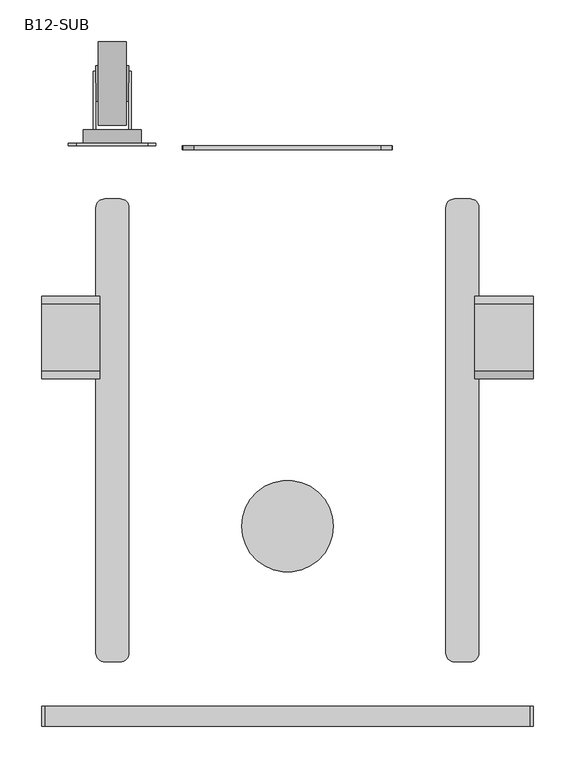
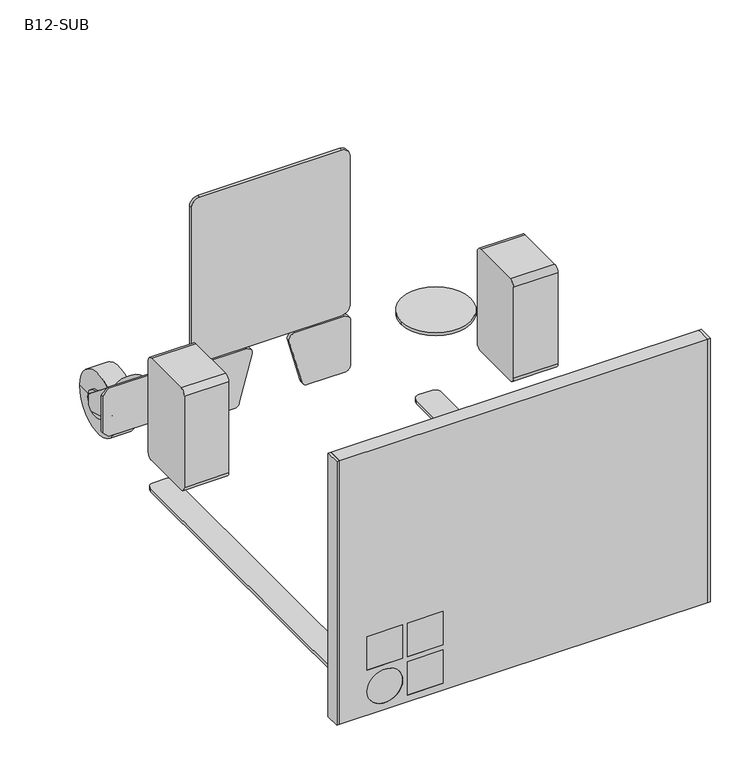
"""IFC4 building model written with IfcOpenShell, lengths in millimetres: proxy geometry, d&b B12-SUB : B12-SUB."""

from ifc_helpers import new_model, si_unit, point, frame, frame_2d, origin, origin_with_axes, place, context, project, spatial, polyline, circle_curve, trimmed, segment, composite_curve, outline, extrude, source, transform, mapped, element, save
from ifc_brep_helpers import plane_surface, cylinder_surface, revolved_surface, advanced_brep


def b12_sub_e7cbb8c9(model_context):
    return source(origin(), model_context, "Body", "SolidModel", [
        advanced_brep(
        [(2254.6771383, 655.2505973, 94.999962), (2324.6771383, 655.2505973, 94.999962), (2312.6771383, 655.2505973, 68.6181501), (2312.6771383, 655.2505973, 121.0781491), (2309.6771383, 655.2505973, 121.0781491), (2309.6771383, 655.2505973, 66.2771488), (2269.6771383, 655.2505973, 66.2771488), (2269.6771383, 655.2505973, 121.0781491), (2266.6771383, 655.2505973, 121.0781491), (2266.6771383, 655.2505973, 68.6181501), (2324.6771383, 639.2505973, 94.999962), (2254.6771383, 639.2505973, 94.999962), (2266.6771383, 639.2505973, 68.6181501), (2266.6771383, 639.2505973, 60.17524), (2269.6771383, 639.2505973, 60.17524), (2269.6771383, 639.2505973, 66.2771488), (2309.6771383, 639.2505973, 66.2771488), (2309.6771383, 639.2505973, 60.17524), (2312.6771383, 639.2505973, 60.17524), (2312.6771383, 639.2505973, 68.6181501), (2266.6771383, 725.4505973, 65.1264244), (2266.6771383, 725.4505973, 46.999962), (2266.6771383, 718.4505973, 39.999962), (2266.6771383, 653.9505973, 60.17524), (2269.6771383, 653.9505973, 60.17524), (2269.6771383, 718.4505973, 39.999962), (2269.6771383, 725.4505973, 46.999962), (2269.6771383, 725.4505973, 65.1264244), (2312.6771383, 653.9505973, 60.17524), (2312.6771383, 718.4505973, 39.999962), (2312.6771383, 725.4505973, 46.999962), (2312.6771383, 725.4505973, 65.1264244), (2309.6771383, 725.4505973, 65.1264244), (2309.6771383, 725.4505973, 46.999962), (2309.6771383, 718.4505973, 39.999962), (2309.6771383, 653.9505973, 60.17524)],
        [
            (0, 1, circle_curve(frame((2289.6771383, 655.2505973, 94.999962), z_axis=(0.0, 1.0, 0.0), x_axis=(-1.0, 0.0, 0.0)), 35.0)),
            (1, 2, circle_curve(frame((2289.6771383, 655.2505973, 94.999962), z_axis=(0.0, 1.0, 0.0), x_axis=(-1.0, 0.0, 0.0)), 35.0)),
            (2, 3),
            (3, 4),
            (4, 5),
            (5, 6, circle_curve(frame((2289.6771383, 655.2505973, 94.999962), z_axis=(0.0, 1.0, 0.0), x_axis=(-1.0, 0.0, 0.0)), 35.0)),
            (6, 7),
            (7, 8),
            (8, 9),
            (9, 0, circle_curve(frame((2289.6771383, 655.2505973, 94.999962), z_axis=(0.0, 1.0, 0.0), x_axis=(-1.0, 0.0, 0.0)), 35.0)),
            (10, 11, circle_curve(frame((2289.6771383, 639.2505973, 94.999962), z_axis=(0.0, -1.0, 0.0), x_axis=(-1.0, 0.0, 0.0)), 35.0)),
            (11, 12, circle_curve(frame((2289.6771383, 639.2505973, 94.999962), z_axis=(0.0, -1.0, 0.0), x_axis=(-1.0, 0.0, 0.0)), 35.0)),
            (12, 13),
            (13, 14),
            (14, 15),
            (15, 16, circle_curve(frame((2289.6771383, 639.2505973, 94.999962), z_axis=(0.0, -1.0, 0.0), x_axis=(-1.0, 0.0, 0.0)), 35.0)),
            (16, 17),
            (17, 18),
            (18, 19),
            (19, 10, circle_curve(frame((2289.6771383, 639.2505973, 94.999962), z_axis=(0.0, -1.0, 0.0), x_axis=(-1.0, 0.0, 0.0)), 35.0)),
            (1, 10),
            (19, 2),
            (15, 6),
            (5, 16),
            (11, 0),
            (9, 12),
            (8, 20),
            (20, 21),
            (21, 22),
            (22, 23),
            (23, 13),
            (14, 24),
            (24, 25),
            (25, 26),
            (26, 27),
            (27, 7),
            (27, 20),
            (26, 21),
            (25, 22),
            (24, 23),
            (18, 28),
            (28, 29),
            (29, 30),
            (30, 31),
            (31, 3),
            (4, 32),
            (32, 33),
            (33, 34),
            (34, 35),
            (35, 17),
            (31, 32),
            (30, 33),
            (29, 34),
            (28, 35),
        ],
        [
            plane_surface(frame((2254.6771383, 655.2505973, 94.999962), z_axis=(0.0, 1.0, 0.0), x_axis=(0.0, 0.0, 1.0))),
            plane_surface(frame((2254.6771383, 639.2505973, 94.999962), z_axis=(0.0, -1.0, 0.0), x_axis=(0.0, 0.0, -1.0))),
            cylinder_surface(frame((2289.6771383, 639.2505973, 94.999962), z_axis=(0.0, 1.0, 0.0), x_axis=(-1.0, 0.0, 0.0)), 35.0),
            plane_surface(frame((2266.6771383, 709.1202866, 78.1422228), z_axis=(-1.0000000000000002, 0.0, 0.0), x_axis=(0.0, 0.7819992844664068, -0.6232793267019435))),
            plane_surface(frame((2269.6771383, 709.1202866, 78.1422228), z_axis=(1.0000000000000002, 0.0, 0.0), x_axis=(0.0, -0.7819992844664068, 0.6232793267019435))),
            plane_surface(frame((2266.6771383, 655.2505973, 121.0781491), z_axis=(0.0, 0.6232793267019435, 0.7819992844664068), x_axis=(1.0, 0.0, 0.0))),
            plane_surface(frame((2266.6771383, 725.4505973, 65.1264244), z_axis=(0.0, 1.0, 0.0), x_axis=(1.0, 0.0, 0.0))),
            plane_surface(frame((2266.6771383, 725.4505973, 46.999962), z_axis=(0.0, 0.7071067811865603, -0.7071067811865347), x_axis=(1.0, 0.0, 0.0))),
            plane_surface(frame((2266.6771383, 718.4505973, 39.999962), z_axis=(0.0, -0.29853148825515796, -0.9543997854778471), x_axis=(1.0, 0.0, 0.0))),
            plane_surface(frame((2266.6771383, 653.9505973, 60.17524), z_axis=(0.0, 0.0, -1.0), x_axis=(1.0, 0.0, 0.0))),
            plane_surface(frame((2312.6771383, 655.2505973, 121.0781491), z_axis=(1.0, 0.0, 0.0), x_axis=(0.0, -1.0, 0.0))),
            plane_surface(frame((2309.6771383, 655.2505973, 121.0781491), z_axis=(-1.0, 0.0, 0.0), x_axis=(0.0, 1.0, 0.0))),
            plane_surface(frame((2312.6771383, 725.4505973, 65.1264244), z_axis=(0.0, 0.6232793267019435, 0.7819992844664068), x_axis=(-1.0, 0.0, 0.0))),
            plane_surface(frame((2312.6771383, 725.4505973, 46.999962), z_axis=(0.0, 1.0, 0.0), x_axis=(-1.0, 0.0, 0.0))),
            plane_surface(frame((2312.6771383, 718.4505973, 39.999962), z_axis=(0.0, 0.7071067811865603, -0.7071067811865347), x_axis=(-1.0, 0.0, 0.0))),
            plane_surface(frame((2312.6771383, 653.9505973, 60.17524), z_axis=(0.0, -0.29853148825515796, -0.9543997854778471), x_axis=(-1.0, 0.0, 0.0))),
            plane_surface(frame((2312.6771383, 639.2505973, 60.17524), z_axis=(0.0, 0.0, -1.0), x_axis=(-1.0, 0.0, 0.0))),
        ],
        [
            (0, [[1, 2, 3, 4, 5, 6, 7, 8, 9, 10]]),
            (1, [[11, 12, 13, 14, 15, 16, 17, 18, 19, 20]]),
            (2, [[21, -20, 22, -2]]),
            (2, [[23, -6, 24, -16]]),
            (2, [[25, -10, 26, -12]]),
            (2, [[-1, -25, -11, -21]]),
            (3, [[27, 28, 29, 30, 31, -13, -26, -9]]),
            (4, [[32, 33, 34, 35, 36, -7, -23, -15]]),
            (5, [[-27, -8, -36, 37]]),
            (6, [[-28, -37, -35, 38]]),
            (7, [[-29, -38, -34, 39]]),
            (8, [[-30, -39, -33, 40]]),
            (9, [[-31, -40, -32, -14]]),
            (10, [[41, 42, 43, 44, 45, -3, -22, -19]]),
            (11, [[46, 47, 48, 49, 50, -17, -24, -5]]),
            (12, [[-45, 51, -46, -4]]),
            (13, [[-44, 52, -47, -51]]),
            (14, [[-43, 53, -48, -52]]),
            (15, [[-42, 54, -49, -53]]),
            (16, [[-41, -18, -50, -54]]),
        ],
    ),
        extrude(outline(polyline([(135.0, 2332.1771003), (135.0, 2247.1771763), (124.999962, 2237.1771383), (64.999962, 2237.1771383), (54.999924, 2247.1771763), (54.999924, 2332.1771003), (64.999962, 2342.1771383), (124.999962, 2342.1771383), (135.0, 2332.1771003)])), frame((0.0, 636.2505973, 0.0), z_axis=(0.0, 1.0, 0.0), x_axis=(0.0, 0.0, 1.0)), (0.0, 0.0, 1.0), 3.0),
        advanced_brep(
        [(2273.0003805, 660.9067763, 55.4678867), (2273.0003805, 760.9067763, 55.4678867), (2306.3538961, 760.9067763, 55.4678867), (2306.3538961, 660.9067763, 55.4678867), (2273.0003805, 689.493179, 55.4678867), (2273.0003805, 732.3203735, 55.4678867), (2269.6771383, 689.493179, 55.4678867), (2269.6771383, 732.3203735, 55.4678867), (2269.6771383, 710.9067763, 55.4678867), (2309.6771383, 689.493179, 55.4678867), (2309.6771383, 732.3203735, 55.4678867), (2309.6771383, 710.9067763, 55.4678867), (2306.3538961, 689.493179, 55.4678867), (2306.3538961, 732.3203735, 55.4678867)],
        [
            (0, 1, circle_curve(frame((2273.0003805, 710.9067763, 55.4678867), z_axis=(1.0, 0.0, 0.0), x_axis=(0.0, 1.0, 0.0)), 50.0)),
            (1, 2),
            (2, 3, circle_curve(frame((2306.3538961, 710.9067763, 55.4678867), z_axis=(-1.0, 0.0, 0.0), x_axis=(0.0, 1.0, 0.0)), 50.0)),
            (3, 0),
            (1, 0, circle_curve(frame((2273.0003805, 710.9067763, 55.4678867), z_axis=(1.0, 0.0, 0.0), x_axis=(0.0, 1.0, 0.0)), 50.0)),
            (3, 2, circle_curve(frame((2306.3538961, 710.9067763, 55.4678867), z_axis=(-1.0, 0.0, 0.0), x_axis=(0.0, 1.0, 0.0)), 50.0)),
            (4, 5, circle_curve(frame((2273.0003805, 710.9067763, 55.4678867), z_axis=(1.0, 0.0, 0.0), x_axis=(0.0, 1.0, 0.0)), 21.4135972)),
            (5, 1),
            (0, 4),
            (5, 4, circle_curve(frame((2273.0003805, 710.9067763, 55.4678867), z_axis=(1.0, 0.0, 0.0), x_axis=(0.0, 1.0, 0.0)), 21.4135972)),
            (6, 7, circle_curve(frame((2269.6771383, 710.9067763, 55.4678867), z_axis=(1.0, 0.0, 0.0), x_axis=(0.0, 1.0, 0.0)), 21.4135972)),
            (7, 5),
            (4, 6),
            (7, 6, circle_curve(frame((2269.6771383, 710.9067763, 55.4678867), z_axis=(1.0, 0.0, 0.0), x_axis=(0.0, 1.0, 0.0)), 21.4135972)),
            (8, 7),
            (6, 8),
            (9, 10, circle_curve(frame((2309.6771383, 710.9067763, 55.4678867), z_axis=(1.0, 0.0, 0.0), x_axis=(0.0, 1.0, 0.0)), 21.4135972)),
            (10, 11),
            (11, 9),
            (10, 9, circle_curve(frame((2309.6771383, 710.9067763, 55.4678867), z_axis=(1.0, 0.0, 0.0), x_axis=(0.0, 1.0, 0.0)), 21.4135972)),
            (12, 13, circle_curve(frame((2306.3538961, 710.9067763, 55.4678867), z_axis=(1.0, 0.0, 0.0), x_axis=(0.0, 1.0, 0.0)), 21.4135972)),
            (13, 10),
            (9, 12),
            (13, 12, circle_curve(frame((2306.3538961, 710.9067763, 55.4678867), z_axis=(1.0, 0.0, 0.0), x_axis=(0.0, 1.0, 0.0)), 21.4135972)),
            (2, 13),
            (12, 3),
        ],
        [
            cylinder_surface(frame((2246.7338841, 710.9067763, 55.4678867), z_axis=(-1.0, 0.0, 0.0), x_axis=(0.0, 1.0, 0.0)), 50.0),
            plane_surface(frame((2273.0003805, 710.9067763, 55.4678867), z_axis=(-1.0, 0.0, 0.0), x_axis=(0.0, 1.0, 0.0))),
            cylinder_surface(frame((2246.7338841, 710.9067763, 55.4678867), z_axis=(-1.0, 0.0, 0.0), x_axis=(0.0, 1.0, 0.0)), 21.4135972),
            plane_surface(frame((2269.6771383, 710.9067763, 55.4678867), z_axis=(-1.0, 0.0, 0.0), x_axis=(0.0, 1.0, 0.0))),
            plane_surface(frame((2309.6771383, 710.9067763, 55.4678867), z_axis=(1.0, 0.0, 0.0), x_axis=(0.0, 1.0, 0.0))),
            plane_surface(frame((2306.3538961, 710.9067763, 55.4678867), z_axis=(1.0, 0.0, 0.0), x_axis=(0.0, 1.0, 0.0))),
        ],
        [
            (0, [[1, 2, 3, 4]]),
            (0, [[5, -4, 6, -2]]),
            (1, [[7, 8, -1, 9]]),
            (1, [[10, -9, -5, -8]]),
            (2, [[11, 12, -7, 13]]),
            (2, [[14, -13, -10, -12]]),
            (3, [[15, -11, 16]]),
            (3, [[-16, -14, -15]]),
            (4, [[17, 18, 19]]),
            (4, [[20, -19, -18]]),
            (2, [[21, 22, -17, 23]]),
            (2, [[24, -23, -20, -22]]),
            (5, [[-3, 25, -21, 26]]),
            (5, [[-6, -26, -24, -25]]),
        ],
    ),
        extrude(outline(composite_curve([segment(polyline([(129.0, 2617.0), (129.0, 2538.0890284)]), True, "CONTINUOUS"), segment(trimmed(circle_curve(frame_2d((120.0, 2538.0890284)), 9.0), [point((129.0, 2538.0890284))], [point((117.6706286, 2529.3956959))], False, "CARTESIAN"), True, "CONTINUOUS"), segment(polyline([(117.6706286, 2529.3956959), (42.6706286, 2549.4918854)]), True, "CONTINUOUS"), segment(trimmed(circle_curve(frame_2d((45.0, 2558.1852178)), 9.0), [point((42.6706286, 2549.4918854))], [point((36.0, 2558.1852178))], False, "CARTESIAN"), True, "CONTINUOUS"), segment(polyline([(36.0, 2558.1852178), (36.0, 2617.0)]), True, "CONTINUOUS"), segment(trimmed(circle_curve(frame_2d((45.0, 2617.0)), 9.0), [point((36.0, 2617.0))], [point((45.0, 2626.0))], False, "CARTESIAN"), True, "CONTINUOUS"), segment(polyline([(45.0, 2626.0), (120.0, 2626.0)]), True, "CONTINUOUS"), segment(trimmed(circle_curve(frame_2d((120.0, 2617.0)), 9.0), [point((120.0, 2626.0))], [point((129.0, 2617.0))], False, "CARTESIAN"), True, "CONTINUOUS")], self_intersect=False)), frame((0.0, 631.2505973, 0.0), z_axis=(0.0, 1.0, 0.0), x_axis=(0.0, 0.0, 1.0)), (0.0, 0.0, 1.0), 5.0),
        extrude(outline(composite_curve([segment(trimmed(circle_curve(frame_2d((120.0, 2383.0)), 9.0), [point((129.0, 2383.0))], [point((120.0, 2374.0))], False, "CARTESIAN"), True, "CONTINUOUS"), segment(polyline([(120.0, 2374.0), (45.0, 2374.0)]), True, "CONTINUOUS"), segment(trimmed(circle_curve(frame_2d((45.0, 2383.0)), 9.0), [point((45.0, 2374.0))], [point((36.0, 2383.0))], False, "CARTESIAN"), True, "CONTINUOUS"), segment(polyline([(36.0, 2383.0), (36.0, 2441.8147822)]), True, "CONTINUOUS"), segment(trimmed(circle_curve(frame_2d((45.0, 2441.8147822)), 9.0), [point((36.0, 2441.8147822))], [point((42.6706286, 2450.5081146))], False, "CARTESIAN"), True, "CONTINUOUS"), segment(polyline([(42.6706286, 2450.5081146), (117.6706286, 2470.6043041)]), True, "CONTINUOUS"), segment(trimmed(circle_curve(frame_2d((120.0, 2461.9109716)), 9.0), [point((117.6706286, 2470.6043041))], [point((129.0, 2461.9109716))], False, "CARTESIAN"), True, "CONTINUOUS"), segment(polyline([(129.0, 2461.9109716), (129.0, 2383.0)]), True, "CONTINUOUS")], self_intersect=False)), frame((0.0, 631.2505973, 0.0), z_axis=(0.0, 1.0, 0.0), x_axis=(0.0, 0.0, 1.0)), (0.0, 0.0, 1.0), 5.0),
        extrude(outline(composite_curve([segment(trimmed(circle_curve(frame_2d((446.2505973, 306.2)), 9.0), [point((446.2505973, 315.2))], [point((455.2505973, 306.2))], False, "CARTESIAN"), True, "CONTINUOUS"), segment(polyline([(455.2505973, 306.2), (455.2505973, 154.2)]), True, "CONTINUOUS"), segment(trimmed(circle_curve(frame_2d((446.2505973, 154.2)), 9.0), [point((455.2505973, 154.2))], [point((446.2505973, 145.2))], False, "CARTESIAN"), True, "CONTINUOUS"), segment(polyline([(446.2505973, 145.2), (365.2505973, 145.2)]), True, "CONTINUOUS"), segment(trimmed(circle_curve(frame_2d((365.2505973, 154.2)), 9.0), [point((365.2505973, 145.2))], [point((356.2505973, 154.2))], False, "CARTESIAN"), True, "CONTINUOUS"), segment(polyline([(356.2505973, 154.2), (356.2505973, 306.2)]), True, "CONTINUOUS"), segment(trimmed(circle_curve(frame_2d((365.2505973, 306.2)), 9.0), [point((356.2505973, 306.2))], [point((365.2505973, 315.2))], False, "CARTESIAN"), True, "CONTINUOUS"), segment(polyline([(365.2505973, 315.2), (446.2505973, 315.2)]), True, "CONTINUOUS")], self_intersect=False)), frame((2205.0, 0.0, 0.0), z_axis=(1.0, 0.0, 0.0), x_axis=(0.0, 1.0, 0.0)), (0.0, 0.0, 1.0), 70.0),
        extrude(outline(composite_curve([segment(trimmed(circle_curve(frame_2d((446.2505973, 306.2)), 9.0), [point((446.2505973, 315.2))], [point((455.2505973, 306.2))], False, "CARTESIAN"), True, "CONTINUOUS"), segment(polyline([(455.2505973, 306.2), (455.2505973, 154.2)]), True, "CONTINUOUS"), segment(trimmed(circle_curve(frame_2d((446.2505973, 154.2)), 9.0), [point((455.2505973, 154.2))], [point((446.2505973, 145.2))], False, "CARTESIAN"), True, "CONTINUOUS"), segment(polyline([(446.2505973, 145.2), (365.2505973, 145.2)]), True, "CONTINUOUS"), segment(trimmed(circle_curve(frame_2d((365.2505973, 154.2)), 9.0), [point((365.2505973, 145.2))], [point((356.2505973, 154.2))], False, "CARTESIAN"), True, "CONTINUOUS"), segment(polyline([(356.2505973, 154.2), (356.2505973, 306.2)]), True, "CONTINUOUS"), segment(trimmed(circle_curve(frame_2d((365.2505973, 306.2)), 9.0), [point((356.2505973, 306.2))], [point((365.2505973, 315.2))], False, "CARTESIAN"), True, "CONTINUOUS"), segment(polyline([(365.2505973, 315.2), (446.2505973, 315.2)]), True, "CONTINUOUS")], self_intersect=False)), frame((2725.0, 0.0, 0.0), z_axis=(1.0, 0.0, 0.0), x_axis=(0.0, 1.0, 0.0)), (0.0, 0.0, 1.0), 70.0),
        advanced_brep(
        [(2790.5, -60.7494027, 10.0), (2790.5, -36.5494027, 10.0), (2790.5, -36.5494027, 450.0), (2790.5, -60.7494027, 450.0), (2209.5, -60.7494027, 10.0), (2209.5, -60.7494027, 450.0), (2209.5, -36.5494027, 450.0), (2209.5, -36.5494027, 10.0), (2309.0, -60.7494027, 141.5), (2309.0, -60.7494027, 85.5), (2253.0, -60.7494027, 85.5), (2253.0, -60.7494027, 141.5), (2373.0, -60.7494027, 141.5), (2373.0, -60.7494027, 85.5), (2317.0, -60.7494027, 85.5), (2317.0, -60.7494027, 141.5), (2373.0, -60.7494027, 77.5), (2373.0, -60.7494027, 21.5), (2317.0, -60.7494027, 21.5), (2317.0, -60.7494027, 77.5), (2309.0, -60.7494027, 49.5), (2253.0, -60.7494027, 49.5), (2309.0, -50.7494027, 141.5), (2253.0, -50.7494027, 141.5), (2253.0, -50.7494027, 85.5), (2309.0, -50.7494027, 85.5), (2373.0, -50.7494027, 141.5), (2317.0, -50.7494027, 141.5), (2317.0, -50.7494027, 85.5), (2373.0, -50.7494027, 85.5), (2373.0, -50.7494027, 77.5), (2317.0, -50.7494027, 77.5), (2317.0, -50.7494027, 21.5), (2373.0, -50.7494027, 21.5), (2309.0, -50.7494027, 49.5), (2253.0, -50.7494027, 49.5)],
        [
            (0, 1),
            (1, 2),
            (2, 3),
            (3, 0),
            (4, 5),
            (5, 6),
            (6, 7),
            (7, 4),
            (1, 7),
            (6, 2),
            (5, 3),
            (4, 0),
            (8, 9),
            (9, 10),
            (10, 11),
            (11, 8),
            (12, 13),
            (13, 14),
            (14, 15),
            (15, 12),
            (16, 17),
            (17, 18),
            (18, 19),
            (19, 16),
            (20, 21, circle_curve(frame((2281.0, -60.7494027, 49.5), z_axis=(0.0, 1.0, 0.0), x_axis=(-1.0, 0.0, 0.0)), 28.0)),
            (21, 20, circle_curve(frame((2281.0, -60.7494027, 49.5), z_axis=(0.0, 1.0, 0.0), x_axis=(-1.0, 0.0, 0.0)), 28.0)),
            (22, 23),
            (23, 24),
            (24, 25),
            (25, 22),
            (26, 27),
            (27, 28),
            (28, 29),
            (29, 26),
            (30, 31),
            (31, 32),
            (32, 33),
            (33, 30),
            (34, 35, circle_curve(frame((2281.0, -50.7494027, 49.5), z_axis=(0.0, -1.0, 0.0), x_axis=(-1.0, 0.0, 0.0)), 28.0)),
            (35, 34, circle_curve(frame((2281.0, -50.7494027, 49.5), z_axis=(0.0, -1.0, 0.0), x_axis=(-1.0, 0.0, 0.0)), 28.0)),
            (25, 9),
            (8, 22),
            (24, 10),
            (23, 11),
            (29, 13),
            (12, 26),
            (28, 14),
            (27, 15),
            (33, 17),
            (16, 30),
            (32, 18),
            (31, 19),
            (35, 21),
            (20, 34),
        ],
        [
            plane_surface(frame((2790.5, -36.5494027, 10.0), z_axis=(1.0, 0.0, 0.0), x_axis=(0.0, 1.0, 0.0))),
            plane_surface(frame((2209.5, -36.5494027, 10.0), z_axis=(-1.0, 0.0, 0.0), x_axis=(0.0, -1.0, 0.0))),
            plane_surface(frame((2790.5, -36.5494027, 10.0), z_axis=(0.0, 1.0, 0.0), x_axis=(-1.0, 0.0, 0.0))),
            plane_surface(frame((2790.5, -36.5494027, 450.0), z_axis=(0.0, 0.0, 1.0), x_axis=(-1.0, 0.0, 0.0))),
            plane_surface(frame((2790.5, -60.7494027, 450.0), z_axis=(0.0, -1.0, 0.0), x_axis=(-1.0, 0.0, 0.0))),
            plane_surface(frame((2309.0, -50.7494027, 131.0), z_axis=(0.0, -1.0, 0.0), x_axis=(0.0, 0.0, -1.0))),
            plane_surface(frame((2309.0, -50.7494027, 141.5), z_axis=(-1.0, 0.0, 0.0), x_axis=(0.0, -1.0, 0.0))),
            plane_surface(frame((2309.0, -50.7494027, 85.5), z_axis=(0.0, 0.0, 1.0), x_axis=(0.0, -1.0, 0.0))),
            plane_surface(frame((2253.0, -50.7494027, 85.5), z_axis=(1.0, 0.0, 0.0), x_axis=(0.0, -1.0, 0.0))),
            plane_surface(frame((2253.0, -50.7494027, 141.5), z_axis=(0.0, 0.0, -1.0), x_axis=(0.0, -1.0, 0.0))),
            plane_surface(frame((2373.0, -50.7494027, 141.5), z_axis=(-1.0, 0.0, 0.0), x_axis=(0.0, -1.0, 0.0))),
            plane_surface(frame((2373.0, -50.7494027, 85.5), z_axis=(0.0, 0.0, 1.0), x_axis=(0.0, -1.0, 0.0))),
            plane_surface(frame((2317.0, -50.7494027, 85.5), z_axis=(1.0, 0.0, 0.0), x_axis=(0.0, -1.0, 0.0))),
            plane_surface(frame((2317.0, -50.7494027, 141.5), z_axis=(0.0, 0.0, -1.0), x_axis=(0.0, -1.0, 0.0))),
            plane_surface(frame((2373.0, -50.7494027, 77.5), z_axis=(-1.0, 0.0, 0.0), x_axis=(0.0, -1.0, 0.0))),
            plane_surface(frame((2373.0, -50.7494027, 21.5), z_axis=(0.0, 0.0, 1.0), x_axis=(0.0, -1.0, 0.0))),
            plane_surface(frame((2317.0, -50.7494027, 21.5), z_axis=(1.0, 0.0, 0.0), x_axis=(0.0, -1.0, 0.0))),
            plane_surface(frame((2317.0, -50.7494027, 77.5), z_axis=(0.0, 0.0, -1.0), x_axis=(0.0, -1.0, 0.0))),
            revolved_surface(polyline([(2253.0, -50.7494027, 49.5), (2253.0, -60.7494027, 49.5)]), (2281.0, -60.7494027, 49.5), (0.0, 1.0, 0.0)),
            plane_surface(frame((2790.5, -60.7494027, 10.0), z_axis=(0.0, 0.0, -1.0), x_axis=(-1.0, 0.0, 0.0))),
        ],
        [
            (0, [[1, 2, 3, 4]]),
            (1, [[5, 6, 7, 8]]),
            (2, [[-2, 9, -7, 10]]),
            (3, [[-3, -10, -6, 11]]),
            (4, [[-4, -11, -5, 12], [13, 14, 15, 16], [17, 18, 19, 20], [21, 22, 23, 24], [25, 26]]),
            (5, [[27, 28, 29, 30]]),
            (5, [[31, 32, 33, 34]]),
            (5, [[35, 36, 37, 38]]),
            (5, [[39, 40]]),
            (6, [[-30, 41, -13, 42]]),
            (7, [[-29, 43, -14, -41]]),
            (8, [[-28, 44, -15, -43]]),
            (9, [[-27, -42, -16, -44]]),
            (10, [[-34, 45, -17, 46]]),
            (11, [[-33, 47, -18, -45]]),
            (12, [[-32, 48, -19, -47]]),
            (13, [[-31, -46, -20, -48]]),
            (14, [[-38, 49, -21, 50]]),
            (15, [[-37, 51, -22, -49]]),
            (16, [[-36, 52, -23, -51]]),
            (17, [[-35, -50, -24, -52]]),
            (18, [[-40, 53, -25, 54]]),
            (18, [[-39, -54, -26, -53]]),
            (19, [[-1, -12, -8, -9]]),
        ],
    ),
        extrude(outline(polyline([(2790.5, -60.7494027), (2790.5, -36.5494027), (2795.0, -36.5494027), (2795.0, -60.7494027), (2790.5, -60.7494027)])), frame((0.0, 0.0, 10.0), z_axis=(0.0, 0.0, 1.0), x_axis=(1.0, 0.0, 0.0)), (0.0, 0.0, 1.0), 440.0),
        extrude(outline(composite_curve([segment(trimmed(circle_curve(frame_2d((2500.0, 179.4505973)), 55.0), [point((2445.0, 179.4505973))], [point((2555.0, 179.4505973))], False, "CARTESIAN"), True, "CONTINUOUS"), segment(trimmed(circle_curve(frame_2d((2500.0, 179.4505973)), 55.0), [point((2555.0, 179.4505973))], [point((2445.0, 179.4505973))], False, "CARTESIAN"), True, "CONTINUOUS")], self_intersect=False)), frame((0.0, 0.0, 450.0), z_axis=(0.0, 0.0, 1.0), x_axis=(1.0, 0.0, 0.0)), (0.0, 0.0, 1.0), 5.0),
        extrude(outline(polyline([(2209.5, -36.5494027), (2209.5, -60.7494027), (2205.0, -60.7494027), (2205.0, -36.5494027), (2209.5, -36.5494027)])), frame((0.0, 0.0, 10.0), z_axis=(0.0, 0.0, 1.0), x_axis=(1.0, 0.0, 0.0)), (0.0, 0.0, 1.0), 440.0),
        extrude(outline(composite_curve([segment(trimmed(circle_curve(frame_2d((395.0, 2612.0)), 13.0), [point((395.0, 2625.0))], [point((408.0, 2612.0))], False, "CARTESIAN"), True, "CONTINUOUS"), segment(polyline([(408.0, 2612.0), (408.0, 2388.0)]), True, "CONTINUOUS"), segment(trimmed(circle_curve(frame_2d((395.0, 2388.0)), 13.0), [point((408.0, 2388.0))], [point((395.0, 2375.0))], False, "CARTESIAN"), True, "CONTINUOUS"), segment(polyline([(395.0, 2375.0), (145.0, 2375.0)]), True, "CONTINUOUS"), segment(trimmed(circle_curve(frame_2d((145.0, 2388.0)), 13.0), [point((145.0, 2375.0))], [point((132.0, 2388.0))], False, "CARTESIAN"), True, "CONTINUOUS"), segment(polyline([(132.0, 2388.0), (132.0, 2612.0)]), True, "CONTINUOUS"), segment(trimmed(circle_curve(frame_2d((145.0, 2612.0)), 13.0), [point((132.0, 2612.0))], [point((145.0, 2625.0))], False, "CARTESIAN"), True, "CONTINUOUS"), segment(polyline([(145.0, 2625.0), (395.0, 2625.0)]), True, "CONTINUOUS")], self_intersect=False)), frame((0.0, 631.2505973, 0.0), z_axis=(0.0, 1.0, 0.0), x_axis=(0.0, 0.0, 1.0)), (0.0, 0.0, 1.0), 5.0),
        extrude(outline(composite_curve([segment(trimmed(circle_curve(frame_2d((2299.3, 561.7505973)), 10.5), [point((2299.3, 572.2505973))], [point((2309.8, 561.7505973))], False, "CARTESIAN"), True, "CONTINUOUS"), segment(polyline([(2309.8, 561.7505973), (2309.8, 27.1505973)]), True, "CONTINUOUS"), segment(trimmed(circle_curve(frame_2d((2299.3, 27.1505973)), 10.5), [point((2309.8, 27.1505973))], [point((2299.3, 16.6505973))], False, "CARTESIAN"), True, "CONTINUOUS"), segment(polyline([(2299.3, 16.6505973), (2280.7, 16.6505973)]), True, "CONTINUOUS"), segment(trimmed(circle_curve(frame_2d((2280.7, 27.1505973)), 10.5), [point((2280.7, 16.6505973))], [point((2270.2, 27.1505973))], False, "CARTESIAN"), True, "CONTINUOUS"), segment(polyline([(2270.2, 27.1505973), (2270.2, 561.7505973)]), True, "CONTINUOUS"), segment(trimmed(circle_curve(frame_2d((2280.7, 561.7505973)), 10.5), [point((2270.2, 561.7505973))], [point((2280.7, 572.2505973))], False, "CARTESIAN"), True, "CONTINUOUS"), segment(polyline([(2280.7, 572.2505973), (2299.3, 572.2505973)]), True, "CONTINUOUS")], self_intersect=False)), origin_with_axes(), (0.0, 0.0, 1.0), 5.0),
        extrude(outline(composite_curve([segment(polyline([(2700.7, 572.2505973), (2719.3, 572.2505973)]), True, "CONTINUOUS"), segment(trimmed(circle_curve(frame_2d((2719.3, 561.7505973)), 10.5), [point((2719.3, 572.2505973))], [point((2729.8, 561.7505973))], False, "CARTESIAN"), True, "CONTINUOUS"), segment(polyline([(2729.8, 561.7505973), (2729.8, 27.1505973)]), True, "CONTINUOUS"), segment(trimmed(circle_curve(frame_2d((2719.3, 27.1505973)), 10.5), [point((2729.8, 27.1505973))], [point((2719.3, 16.6505973))], False, "CARTESIAN"), True, "CONTINUOUS"), segment(polyline([(2719.3, 16.6505973), (2700.7, 16.6505973)]), True, "CONTINUOUS"), segment(trimmed(circle_curve(frame_2d((2700.7, 27.1505973)), 10.5), [point((2700.7, 16.6505973))], [point((2690.2, 27.1505973))], False, "CARTESIAN"), True, "CONTINUOUS"), segment(polyline([(2690.2, 27.1505973), (2690.2, 561.7505973)]), True, "CONTINUOUS"), segment(trimmed(circle_curve(frame_2d((2700.7, 561.7505973)), 10.5), [point((2690.2, 561.7505973))], [point((2700.7, 572.2505973))], False, "CARTESIAN"), True, "CONTINUOUS")], self_intersect=False)), origin_with_axes(), (0.0, 0.0, 1.0), 5.0),
        extrude(outline(polyline([(2253.0, -50.7494027), (2309.0, -50.7494027), (2309.0, -60.7494027), (2253.0, -60.7494027), (2253.0, -50.7494027)])), frame((0.0, 0.0, 85.5), z_axis=(0.0, 0.0, 1.0), x_axis=(1.0, 0.0, 0.0)), (0.0, 0.0, 1.0), 56.0),
        extrude(outline(polyline([(2317.0, -50.7494027), (2373.0, -50.7494027), (2373.0, -60.7494027), (2317.0, -60.7494027), (2317.0, -50.7494027)])), frame((0.0, 0.0, 85.5), z_axis=(0.0, 0.0, 1.0), x_axis=(1.0, 0.0, 0.0)), (0.0, 0.0, 1.0), 56.0),
        extrude(outline(polyline([(2317.0, -50.7494027), (2373.0, -50.7494027), (2373.0, -60.7494027), (2317.0, -60.7494027), (2317.0, -50.7494027)])), frame((0.0, 0.0, 21.5), z_axis=(0.0, 0.0, 1.0), x_axis=(1.0, 0.0, 0.0)), (0.0, 0.0, 1.0), 56.0),
        extrude(outline(composite_curve([segment(trimmed(circle_curve(frame_2d((49.5, 2281.0)), 28.0), [point((49.5, 2309.0))], [point((49.5, 2253.0))], False, "CARTESIAN"), True, "CONTINUOUS"), segment(trimmed(circle_curve(frame_2d((49.5, 2281.0)), 28.0), [point((49.5, 2253.0))], [point((49.5, 2309.0))], False, "CARTESIAN"), True, "CONTINUOUS")], self_intersect=False)), frame((0.0, -60.7494027, 0.0), z_axis=(0.0, 1.0, 0.0), x_axis=(0.0, 0.0, 1.0)), (0.0, 0.0, 1.0), 10.0),
    ])


if __name__ == "__main__":
    model = new_model("IFC4")
    model_context = context("Model", 3, world=origin())
    ifc_project = project(units=[si_unit("LENGTHUNIT", "METRE", prefix="MILLI")], contexts=[model_context])
    site = spatial("IfcSite", under=ifc_project)
    building = spatial("IfcBuilding", under=site)
    placement = place(None, origin())
    b12_sub_shape = b12_sub_e7cbb8c9(model_context)
    element("IfcBuildingElementProxy", 1, Name="d&b B12-SUB : B12-SUB", ObjectType="d&b B12-SUB : B12-SUB", at=placement, inside=building, context=model_context, shape_type="MappedRepresentation", body=[
        mapped(b12_sub_shape, transform((0.0, 0.0, 0.0), x_axis=(1.0, 0.0, 0.0), y_axis=(0.0, 1.0, 0.0), z_axis=(0.0, 0.0, 1.0))),
    ])
    save(model, "model.ifc")
